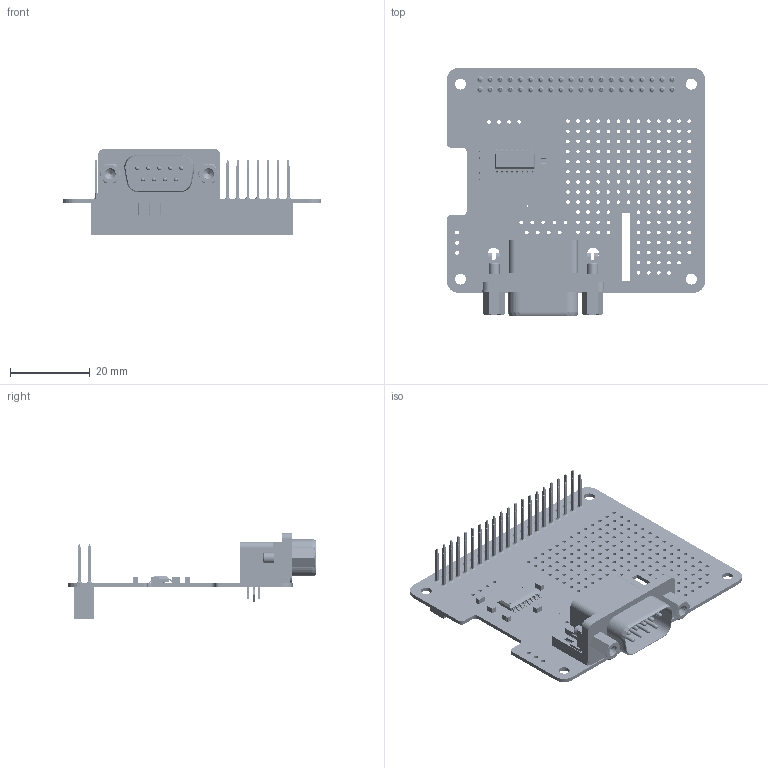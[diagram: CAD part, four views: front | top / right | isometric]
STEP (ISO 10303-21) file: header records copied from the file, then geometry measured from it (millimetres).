
FILE_DESCRIPTION(/* description */ (''),/* implementation_level */ '2;1');
FILE_NAME(/* name */ 'C:/Users/andrew/Desktop/3D Models/serial-pi-plus-1.0.step',/* time_stamp */ '2018-02-10T15:35:22+00:00',/* author */ ('and101'),/* organization */ (''),/* preprocessor_version */ 'ST-DEVELOPER v16.13',/* originating_system */ 'Autodesk Translation Framework v6.5.0.72',/* authorisation */ '');
FILE_SCHEMA (('AUTOMOTIVE_DESIGN { 1 0 10303 214 3 1 1 }'));
Products named in the file (6): serial-pi-plus-1.0; Board_serial-pi-plus-1; DB-9M; cap_0805; 40_way_header; soic-16_150mil
Assembly tree (9 placements, depth 2):
  serial-pi-plus-1.0
    Board_serial-pi-plus-1
    DB-9M
    cap_0805  x5
    40_way_header
    soic-16_150mil
Bounding box: 65 x 62.35 x 21.7 mm (x, y, z)
Volume: 9788.4 mm3; surface area: 16931.5 mm2
Topology: 126 solids, 126 shells, 25563 faces, 39834 edges, 14524 vertices
Faces by surface type: plane 25021, cylinder 437, torus 72, cone 18, sphere 9, bspline 6
Full cylindrical faces by diameter (mm): 0.406 x1, 0.9 x181, 1 x52, 1.04 x9, 2.261 x2, 2.72 x2, 2.75 x4, 3 x2, 3.048 x2
Entity records: 509384 total; most frequent: DIRECTION 90633, CARTESIAN_POINT 82102, ORIENTED_EDGE 78158, EDGE_CURVE 39079, LINE 37523, VECTOR 37523, AXIS2_PLACEMENT_3D 26555, EDGE_LOOP 25571
